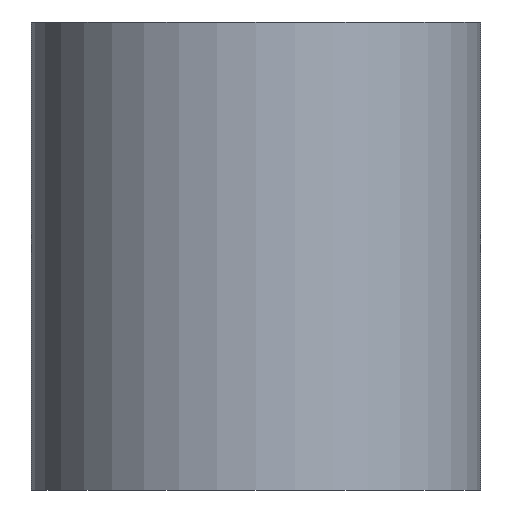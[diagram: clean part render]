
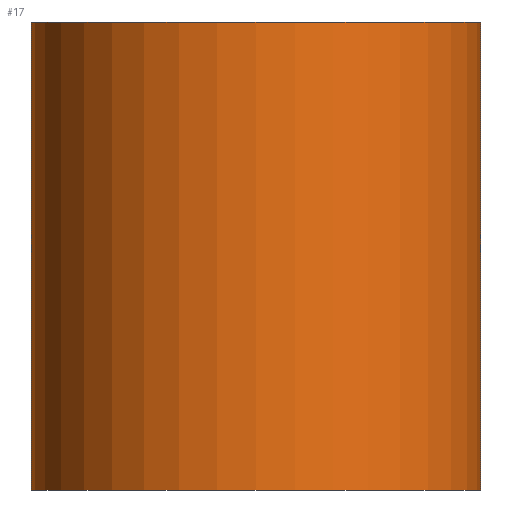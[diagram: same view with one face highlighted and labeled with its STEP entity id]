
A CAD part, front view. The second image highlights one B-rep face of the part: STEP entity #17.
In plain terms, the highlighted cylindrical face has radius 2.4 mm (diameter 4.8 mm), a full revolution.
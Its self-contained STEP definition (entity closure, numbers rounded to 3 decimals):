
#17 = ADVANCED_FACE('',(#18),#32,.T.);
#18 = FACE_BOUND('',#19,.F.);
#19 = EDGE_LOOP('',(#20,#50,#77,#78));
#20 = ORIENTED_EDGE('',*,*,#21,.T.);
#21 = EDGE_CURVE('',#22,#24,#26,.T.);
#22 = VERTEX_POINT('',#23);
#23 = CARTESIAN_POINT('',(70.4,0.,14.5));
#24 = VERTEX_POINT('',#25);
#25 = CARTESIAN_POINT('',(70.4,0.,19.5));
#26 = SEAM_CURVE('',#27,(#31,#43),.PCURVE_S1.);
#27 = LINE('',#28,#29);
#28 = CARTESIAN_POINT('',(70.4,0.,14.5));
#29 = VECTOR('',#30,1.);
#30 = DIRECTION('',(0.,0.,1.));
#31 = PCURVE('',#32,#37);
#32 = CYLINDRICAL_SURFACE('',#33,2.4);
#33 = AXIS2_PLACEMENT_3D('',#34,#35,#36);
#34 = CARTESIAN_POINT('',(68.,0.,14.5));
#35 = DIRECTION('',(-0.,-0.,-1.));
#36 = DIRECTION('',(1.,0.,0.));
#37 = DEFINITIONAL_REPRESENTATION('',(#38),#42);
#38 = LINE('',#39,#40);
#39 = CARTESIAN_POINT('',(-0.,0.));
#40 = VECTOR('',#41,1.);
#41 = DIRECTION('',(-0.,-1.));
#42 = ( GEOMETRIC_REPRESENTATION_CONTEXT(2) 
PARAMETRIC_REPRESENTATION_CONTEXT() REPRESENTATION_CONTEXT('2D SPACE',''
  ) );
#43 = PCURVE('',#32,#44);
#44 = DEFINITIONAL_REPRESENTATION('',(#45),#49);
#45 = LINE('',#46,#47);
#46 = CARTESIAN_POINT('',(-6.283,0.));
#47 = VECTOR('',#48,1.);
#48 = DIRECTION('',(-0.,-1.));
#49 = ( GEOMETRIC_REPRESENTATION_CONTEXT(2) 
PARAMETRIC_REPRESENTATION_CONTEXT() REPRESENTATION_CONTEXT('2D SPACE',''
  ) );
#50 = ORIENTED_EDGE('',*,*,#51,.T.);
#51 = EDGE_CURVE('',#24,#24,#52,.T.);
#52 = SURFACE_CURVE('',#53,(#58,#65),.PCURVE_S1.);
#53 = CIRCLE('',#54,2.4);
#54 = AXIS2_PLACEMENT_3D('',#55,#56,#57);
#55 = CARTESIAN_POINT('',(68.,0.,19.5));
#56 = DIRECTION('',(0.,0.,1.));
#57 = DIRECTION('',(1.,0.,0.));
#58 = PCURVE('',#32,#59);
#59 = DEFINITIONAL_REPRESENTATION('',(#60),#64);
#60 = LINE('',#61,#62);
#61 = CARTESIAN_POINT('',(-0.,-5.));
#62 = VECTOR('',#63,1.);
#63 = DIRECTION('',(-1.,0.));
#64 = ( GEOMETRIC_REPRESENTATION_CONTEXT(2) 
PARAMETRIC_REPRESENTATION_CONTEXT() REPRESENTATION_CONTEXT('2D SPACE',''
  ) );
#65 = PCURVE('',#66,#71);
#66 = PLANE('',#67);
#67 = AXIS2_PLACEMENT_3D('',#68,#69,#70);
#68 = CARTESIAN_POINT('',(68.,0.,19.5));
#69 = DIRECTION('',(0.,0.,1.));
#70 = DIRECTION('',(1.,0.,-0.));
#71 = DEFINITIONAL_REPRESENTATION('',(#72),#76);
#72 = CIRCLE('',#73,2.4);
#73 = AXIS2_PLACEMENT_2D('',#74,#75);
#74 = CARTESIAN_POINT('',(0.,0.));
#75 = DIRECTION('',(1.,0.));
#76 = ( GEOMETRIC_REPRESENTATION_CONTEXT(2) 
PARAMETRIC_REPRESENTATION_CONTEXT() REPRESENTATION_CONTEXT('2D SPACE',''
  ) );
#77 = ORIENTED_EDGE('',*,*,#21,.F.);
#78 = ORIENTED_EDGE('',*,*,#79,.F.);
#79 = EDGE_CURVE('',#22,#22,#80,.T.);
#80 = SURFACE_CURVE('',#81,(#86,#93),.PCURVE_S1.);
#81 = CIRCLE('',#82,2.4);
#82 = AXIS2_PLACEMENT_3D('',#83,#84,#85);
#83 = CARTESIAN_POINT('',(68.,0.,14.5));
#84 = DIRECTION('',(0.,0.,1.));
#85 = DIRECTION('',(1.,0.,0.));
#86 = PCURVE('',#32,#87);
#87 = DEFINITIONAL_REPRESENTATION('',(#88),#92);
#88 = LINE('',#89,#90);
#89 = CARTESIAN_POINT('',(-0.,0.));
#90 = VECTOR('',#91,1.);
#91 = DIRECTION('',(-1.,0.));
#92 = ( GEOMETRIC_REPRESENTATION_CONTEXT(2) 
PARAMETRIC_REPRESENTATION_CONTEXT() REPRESENTATION_CONTEXT('2D SPACE',''
  ) );
#93 = PCURVE('',#94,#99);
#94 = PLANE('',#95);
#95 = AXIS2_PLACEMENT_3D('',#96,#97,#98);
#96 = CARTESIAN_POINT('',(68.,0.,14.5));
#97 = DIRECTION('',(0.,0.,1.));
#98 = DIRECTION('',(1.,0.,-0.));
#99 = DEFINITIONAL_REPRESENTATION('',(#100),#104);
#100 = CIRCLE('',#101,2.4);
#101 = AXIS2_PLACEMENT_2D('',#102,#103);
#102 = CARTESIAN_POINT('',(0.,0.));
#103 = DIRECTION('',(1.,0.));
#104 = ( GEOMETRIC_REPRESENTATION_CONTEXT(2) 
PARAMETRIC_REPRESENTATION_CONTEXT() REPRESENTATION_CONTEXT('2D SPACE',''
  ) );
